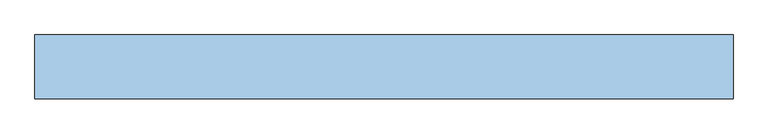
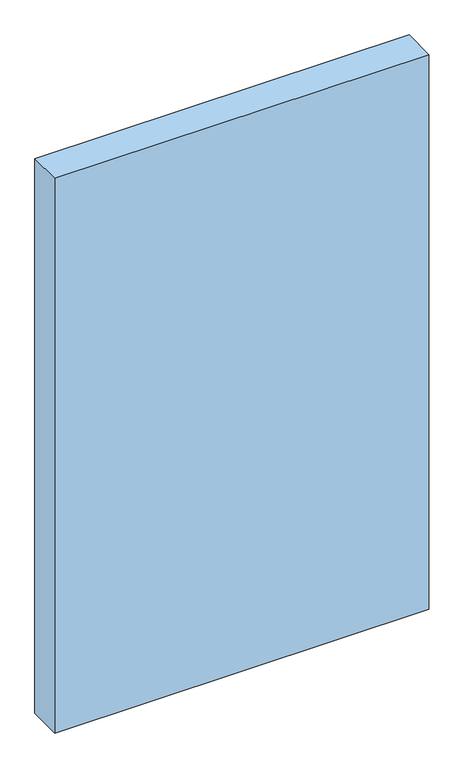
"""IFC4 building model written with IfcOpenShell, lengths in millimetres: window geometry, Dr_Проем-Четверти_окно : ВТ."""

from ifc_helpers import new_model, si_unit, frame, origin, place, context, project, spatial, polyline, outline, extrude, source, transform, mapped, element, save


def window_c061d6d5(model_context):
    return source(origin(), model_context, "Body", "SweptSolid", [
        extrude(outline(polyline([(955.0, -50.0), (-685.0, -50.0), (-685.0, 100.0), (955.0, 100.0), (955.0, -50.0)])), frame((0.0, 0.0, -60.0), z_axis=(0.0, 0.0, 1.0), x_axis=(1.0, 0.0, 0.0)), (0.0, 0.0, 1.0), 2570.0),
    ])


if __name__ == "__main__":
    model = new_model("IFC4")
    model_context = context("Model", 3, world=origin())
    ifc_project = project(units=[si_unit("LENGTHUNIT", "METRE", prefix="MILLI")], contexts=[model_context])
    site = spatial("IfcSite", under=ifc_project)
    building = spatial("IfcBuilding", under=site)
    placement = place(None, origin())
    window_shape = window_c061d6d5(model_context)
    element("IfcWindow", 1, ObjectType="Dr_Проем-Четверти_окно : ВТ", at=placement, inside=building, context=model_context, shape_type="MappedRepresentation", body=[
        mapped(window_shape, transform((0.0, 0.0, 0.0), x_axis=(1.0, 0.0, 0.0), y_axis=(0.0, 1.0, 0.0), z_axis=(0.0, 0.0, 1.0))),
    ])
    save(model, "model.ifc")
